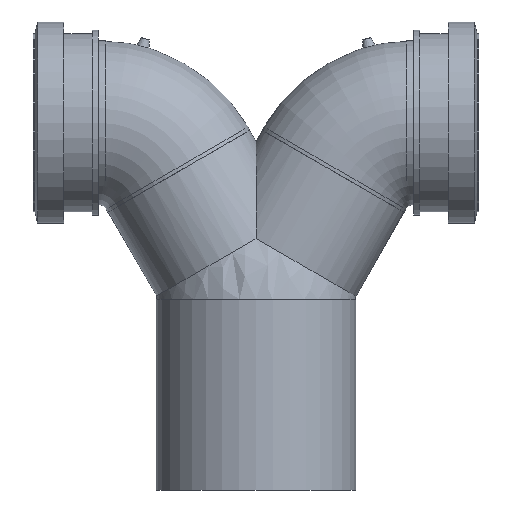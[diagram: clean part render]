
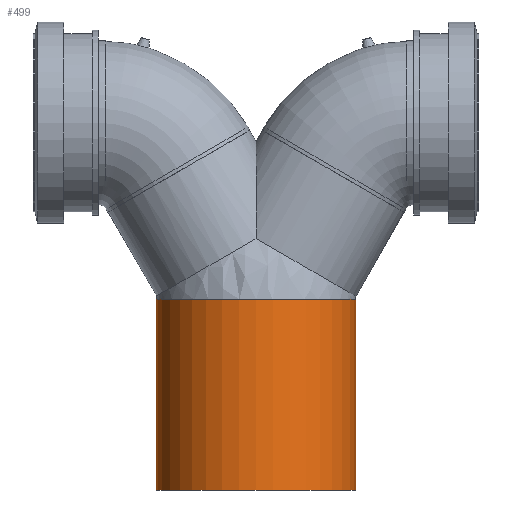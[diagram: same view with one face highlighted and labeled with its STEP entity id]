
A CAD part, front view. The second image highlights one B-rep face of the part: STEP entity #499.
In plain terms, the highlighted cylindrical face has radius 55 mm (diameter 110 mm), a full revolution.
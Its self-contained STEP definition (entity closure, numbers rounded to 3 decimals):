
#80=FACE_BOUND($,#160,.T.);
#129=FACE_OUTER_BOUND($,#159,.T.);
#159=EDGE_LOOP($,(#358));
#160=EDGE_LOOP($,(#359));
#237=CIRCLE($,#550,55.);
#238=CIRCLE($,#551,55.);
#276=VERTEX_POINT($,#846);
#277=VERTEX_POINT($,#848);
#316=EDGE_CURVE($,#276,#276,#237,.T.);
#317=EDGE_CURVE($,#277,#277,#238,.T.);
#358=ORIENTED_EDGE($,*,*,#316,.T.);
#359=ORIENTED_EDGE($,*,*,#317,.F.);
#441=CYLINDRICAL_SURFACE($,#549,55.);
#499=ADVANCED_FACE($,(#129,#80),#441,.T.);
#549=AXIS2_PLACEMENT_3D($,#845,#651,#652);
#550=AXIS2_PLACEMENT_3D($,#847,#653,#654);
#551=AXIS2_PLACEMENT_3D($,#849,#655,#656);
#651=DIRECTION('center_axis',(0.,0.,1.));
#652=DIRECTION('ref_axis',(-1.,0.,0.));
#653=DIRECTION('center_axis',(0.,0.,-1.));
#654=DIRECTION('ref_axis',(-1.,0.,0.));
#655=DIRECTION('center_axis',(0.,0.,-1.));
#656=DIRECTION('ref_axis',(-1.,0.,0.));
#845=CARTESIAN_POINT('Origin',(0.,0.,0.));
#846=CARTESIAN_POINT('',(55.,0.,105.));
#847=CARTESIAN_POINT('Origin',(0.,0.,105.));
#848=CARTESIAN_POINT('',(55.,0.,0.));
#849=CARTESIAN_POINT('Origin',(0.,0.,0.));
